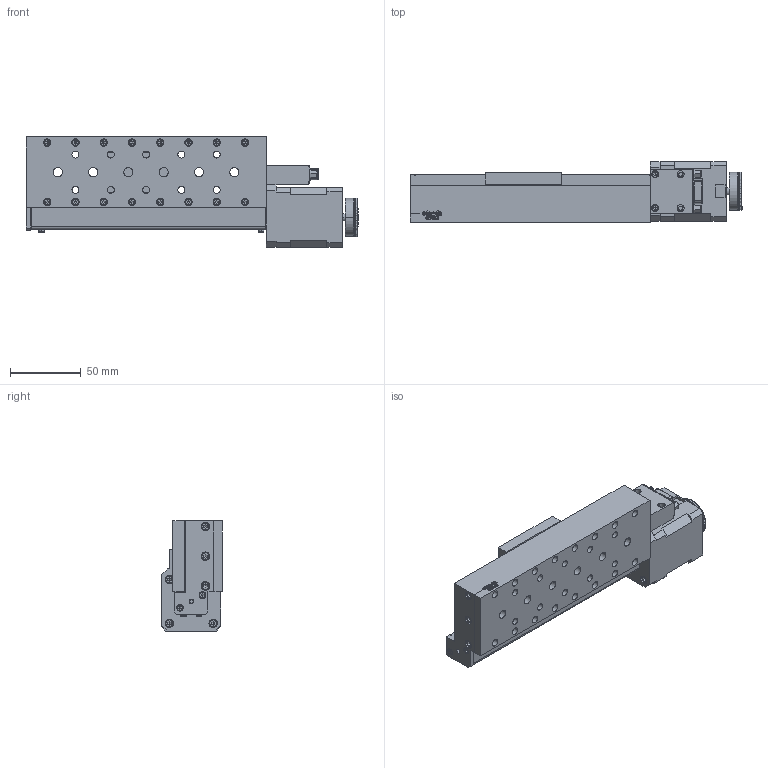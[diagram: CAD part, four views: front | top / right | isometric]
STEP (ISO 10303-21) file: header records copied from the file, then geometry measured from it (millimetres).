
FILE_DESCRIPTION (( 'STEP AP203' ), '1' );
FILE_NAME ('8MT193-100.STEP', '2008-10-27T20:59:31', ( 'Darius' ), ( '' ), 'SwSTEP 2.0', 'SolidWorks 2003240', '' );
FILE_SCHEMA (( 'CONFIG_CONTROL_DESIGN' ));
Products named in the file (1): 8MT193-100
Bounding box: 235 x 43 x 78 mm (x, y, z)
Volume: 371058.8 mm3; surface area: 83571.5 mm2
Topology: 1 solids, 55 shells, 2331 faces, 6046 edges, 3882 vertices
Faces by surface type: plane 993, cylinder 881, bspline 262, cone 195
Entity records: 77907 total; most frequent: CARTESIAN_POINT 22589, ORIENTED_EDGE 11876, DIRECTION 11014, EDGE_CURVE 5938, AXIS2_PLACEMENT_3D 4139, VERTEX_POINT 3882, VECTOR 2736, LINE 2736
